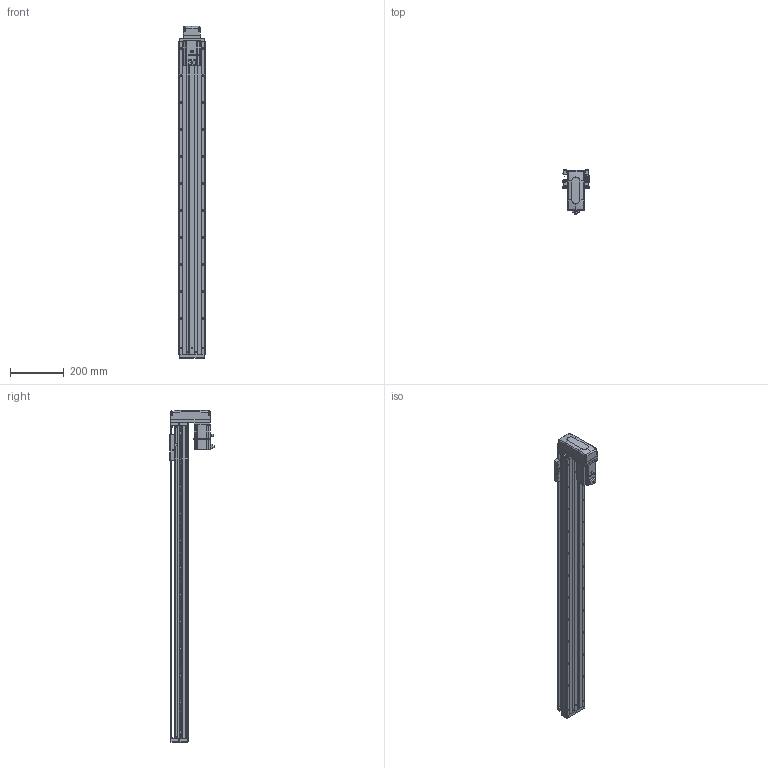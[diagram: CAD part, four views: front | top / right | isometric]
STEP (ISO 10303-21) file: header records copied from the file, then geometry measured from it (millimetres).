
FILE_DESCRIPTION (( 'STEP AP203' ), '1' );
FILE_NAME ('KTHA100-1000-BM-M20-C4L.step', '2022-04-26T01:51:43', ( '微软用户' ), ( '微软中国' ), 'SwSTEP 2.0', 'SolidWorks 2020', '' );
FILE_SCHEMA (( 'CONFIG_CONTROL_DESIGN' ));
Length unit declared in the file: millimetre
Products named in the file (17): _X2_4E0983F1_X0_200W_1; KTHA100-001_1160; CTHA60-021; CTHA86-015-1_CTHA86-015-2; KTHA100-002; GBT77-2000 M3×3; CTHA86-033; KTHA100-004; GBT 70.1-M3℅6; KTHA100-1000-BM-M20-C4L; KTHA100-005; GBT70.1 M5℅16; GB¨uT 70.2-M3¡Á5_M3¡Á6; CTHA60-016; EE_SX911P_R; GBT 70.3-M3℅6; CTHA60-017
Assembly tree (57 placements, depth 2):
  KTHA100-1000-BM-M20-C4L
    KTHA100-001_1160
    KTHA100-002
    KTHA100-004
    KTHA100-005
    GB¨uT 70.2-M3¡Á5_M3¡Á6  x6
    EE_SX911P_R  x3
    CTHA60-017  x3
    CTHA60-021  x2
    GBT77-2000 M3×3  x6
    GBT 70.1-M3℅6  x10
    GBT70.1 M5℅16  x14
    CTHA60-016  x2
    GBT 70.3-M3℅6  x4
    _X2_4E0983F1_X0_200W_1
    CTHA86-015-1_CTHA86-015-2
    CTHA86-033
Bounding box: 98.82 x 163.2 x 1231 mm (x, y, z)
Volume: 5118489.5 mm3; surface area: 827181.7 mm2
Topology: 60 solids, 60 shells, 2517 faces, 6057 edges, 3760 vertices
Faces by surface type: plane 1292, cylinder 701, cone 317, torus 116, bspline 75, sphere 16
Entity records: 44532 total; most frequent: CARTESIAN_POINT 8896, DIRECTION 6932, ORIENTED_EDGE 6726, EDGE_CURVE 3363, AXIS2_PLACEMENT_3D 2404, LINE 2124, VECTOR 2124, VERTEX_POINT 2120
